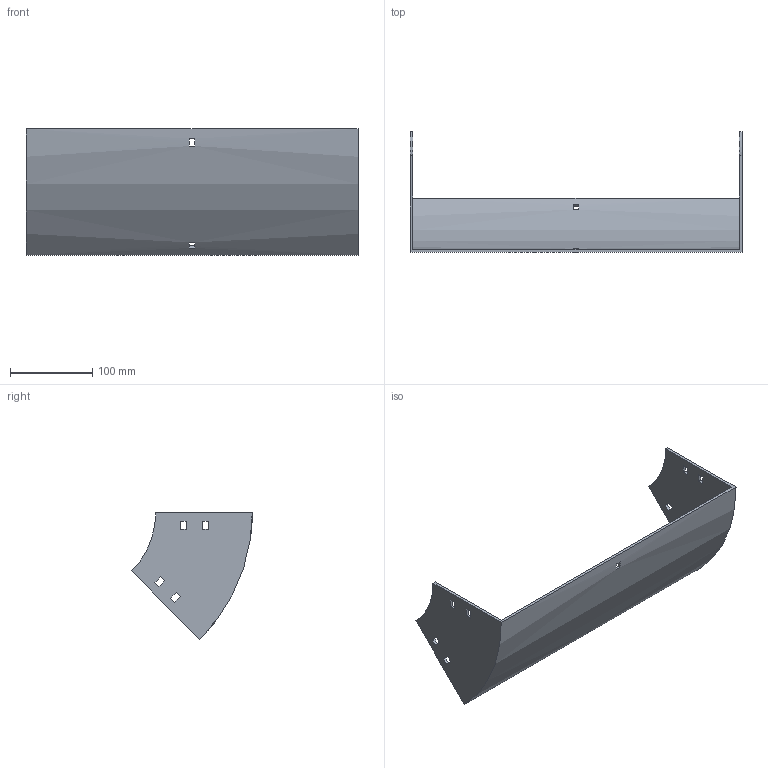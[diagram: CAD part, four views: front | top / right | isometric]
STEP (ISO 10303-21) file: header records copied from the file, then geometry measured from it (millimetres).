
FILE_DESCRIPTION (( 'STEP AP214' ), '1' );
FILE_NAME ('31B1J400.step', '2025-02-21T09:46:13', ( '' ), ( '' ), 'SwSTEP 2.0', 'SolidWorks 2023', '' );
FILE_SCHEMA (( 'AUTOMOTIVE_DESIGN' ));
Length unit declared in the file: millimetre
Products named in the file (1): 31B1J400
Bounding box: 404 x 146.79 x 153.8 mm (x, y, z)
Volume: 335630.5 mm3; surface area: 197941.9 mm2
Topology: 1 solids, 1 shells, 50 faces, 144 edges, 96 vertices
Faces by surface type: plane 46, cylinder 4
Entity records: 1687 total; most frequent: CARTESIAN_POINT 291, ORIENTED_EDGE 288, DIRECTION 262, EDGE_CURVE 144, VECTOR 128, LINE 128, VERTEX_POINT 96, EDGE_LOOP 70
